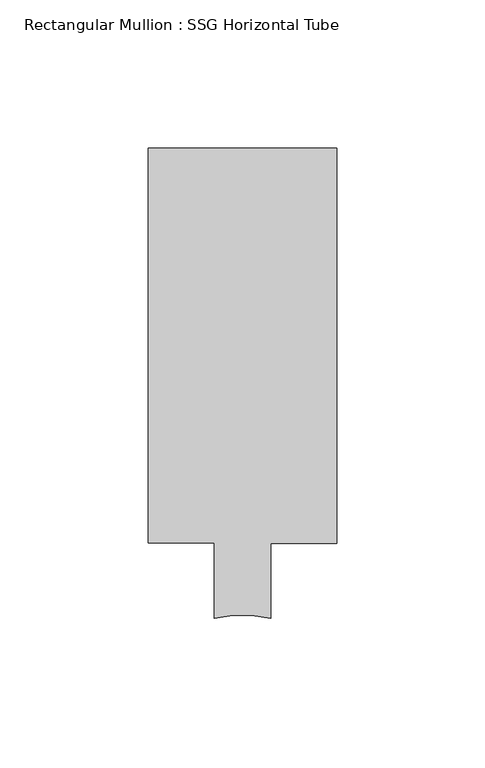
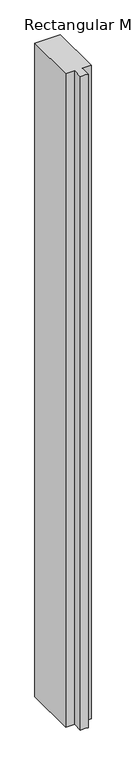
"""IFC4 building model written with IfcOpenShell, lengths in millimetres: member geometry, Rectangular Mullion : SSG Horizontal Tube."""

from ifc_helpers import new_model, si_unit, point, frame, frame_2d, origin, place, context, project, spatial, polyline, circle_curve, trimmed, segment, composite_curve, outline, extrude, source, transform, mapped, element, save


def rectangular_mullion_ssg_horizontal_tube_914c9095(model_context):
    return source(origin(), model_context, "Body", "SweptSolid", [
        extrude(outline(composite_curve([segment(polyline([(31.7705663, 114.3), (31.7705663, -19.05), (9.5552592, -19.05), (9.5552592, -44.4572901)]), True, "CONTINUOUS"), segment(trimmed(circle_curve(frame_2d((0.020565, -81.9595202)), 38.6953183), [point((9.5552592, -44.4572901))], [point((-9.4947442, -44.4523669))], True, "CARTESIAN"), True, "CONTINUOUS"), segment(polyline([(-9.4947442, -44.4523669), (-9.4947442, -18.9488461), (-31.75, -18.9488461), (-31.75, 114.3), (31.7705663, 114.3)]), True, "CONTINUOUS")], self_intersect=False)), frame((0.0, 0.0, -1727.2), z_axis=(0.0, 0.0, 1.0), x_axis=(1.0, 0.0, 0.0)), (0.0, 0.0, 1.0), 1727.2),
    ])


if __name__ == "__main__":
    model = new_model("IFC4")
    model_context = context("Model", 3, world=origin())
    ifc_project = project(units=[si_unit("LENGTHUNIT", "METRE", prefix="MILLI")], contexts=[model_context])
    site = spatial("IfcSite", under=ifc_project)
    building = spatial("IfcBuilding", under=site)
    placement = place(None, origin())
    rectangular_mullion_ssg_horizontal_tube_shape = rectangular_mullion_ssg_horizontal_tube_914c9095(model_context)
    element("IfcMember", 1, ObjectType="Rectangular Mullion : SSG Horizontal Tube", at=placement, inside=building, context=model_context, shape_type="MappedRepresentation", body=[
        mapped(rectangular_mullion_ssg_horizontal_tube_shape, transform((0.0, 0.0, 0.0), x_axis=(1.0, 0.0, 0.0), y_axis=(0.0, 1.0, 0.0), z_axis=(0.0, 0.0, 1.0))),
    ])
    save(model, "model.ifc")
